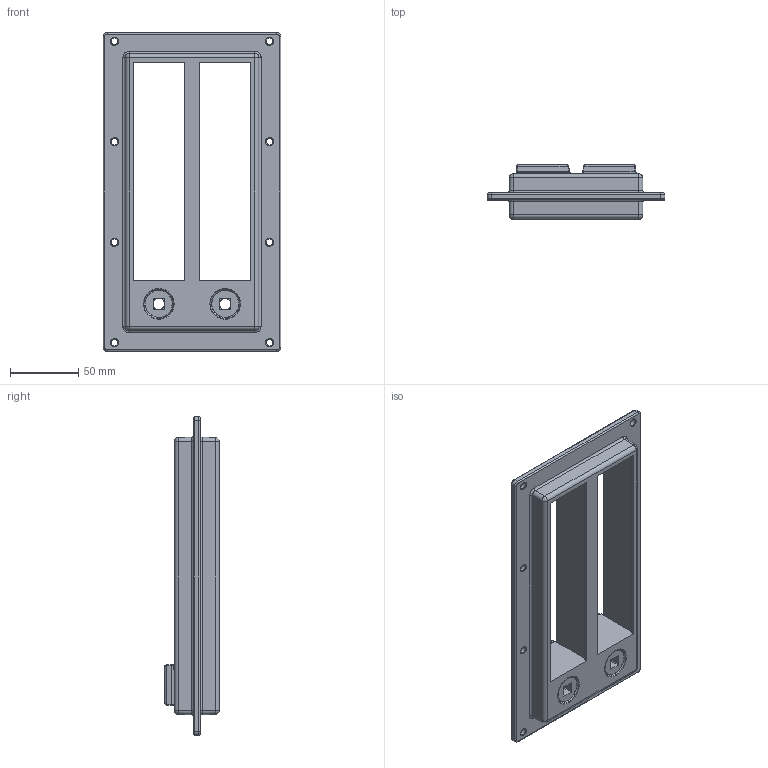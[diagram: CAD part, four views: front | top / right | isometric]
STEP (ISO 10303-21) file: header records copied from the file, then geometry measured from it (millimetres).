
FILE_DESCRIPTION( ('This file contains a STEP AP42 implementation' ,'as created by ZW3D STEP Interface translator.') ,'2;1' );
FILE_NAME( '320801 KML 32-8.stp' ,'23 415.133957', (''), ('ZWCAD Software Co.'), 'Version 1.0', 'ZW3D to STEP translator', '' );
FILE_SCHEMA(('AUTOMOTIVE_DESIGN { 1 0 10303 214 1 1 1 1 }'));
Length unit declared in the file: millimetre
Products named in the file (2): 0; 320801 KML 32-8
Bounding box: 130 x 40 x 233 mm (x, y, z)
Volume: 278138.1 mm3; surface area: 96392.4 mm2
Topology: 1 solids, 1 shells, 284 faces, 794 edges, 498 vertices
Faces by surface type: cylinder 110, plane 98, bspline 72, cone 4
Full cylindrical faces by diameter (mm): 5 x8, 8.5 x2
Entity records: 12272 total; most frequent: CARTESIAN_POINT 5603, ORIENTED_EDGE 1544, DIRECTION 1079, EDGE_CURVE 772, VERTEX_POINT 498, VECTOR 361, LINE 361, AXIS2_PLACEMENT_3D 359
